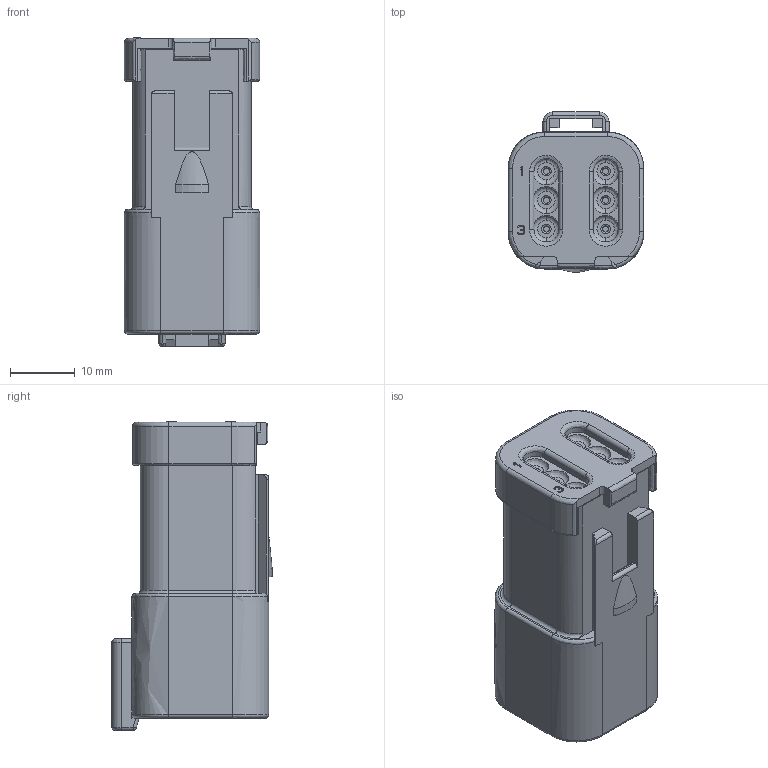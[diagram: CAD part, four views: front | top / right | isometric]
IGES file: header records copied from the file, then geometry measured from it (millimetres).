
Start section:  PTC IGES file: c-dt04-6p-ce03-99-3d.igs
Global section: file name: c-dt04-6p-ce03-99-3d.igs; native system: Pro/ENGINEER by Parametric Technology Corporation; preprocessor: 2010430; author: workeradm; organization: Unknown; units: millimetre
Bounding box: 20.83 x 24.67 x 47.55 mm (x, y, z)
Surface area: 7225.3 mm2 (no closed solid volume)
Topology: 0 solids, 0 shells, 423 faces, 2228 edges, 2228 vertices
Faces by surface type: bspline 231, revolution 192
